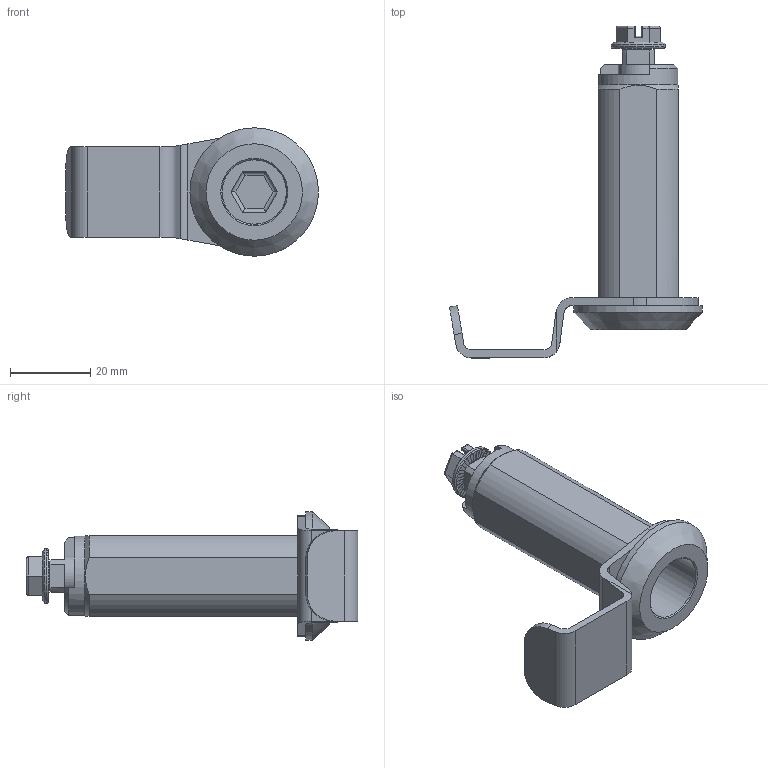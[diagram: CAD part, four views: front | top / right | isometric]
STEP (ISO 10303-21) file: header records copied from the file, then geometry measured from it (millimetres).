
FILE_DESCRIPTION((''),'2;1');
FILE_NAME('C:\Documents and Settings\Administrator\My Documents\Andys Backup Data\ANDY''S INVENTOR\INVENTOR LIBRARIES\MINITEC INVENTOR LIBRARIES\HANDLES LOCKS STOPS\A PACKED FILES\STEP FILES\21.1087_9 BOLT LOCK 45 HEX HEAD 10mm.stp','2010-06-25T10:32:43',('Administrator'),(''),'Autodesk Inventor 2009','Autodesk Inventor 2009','');
FILE_SCHEMA(('AUTOMOTIVE_DESIGN { 1 0 10303 214 1 1 1 1 }'));
Length unit declared in the file: millimetre
Products named in the file (8): 21.1087_9 BOLT LOCK 45 HEX HEAD 10mm; 1000-U506 HOUSING 60mm Zn BLACK; 1000-362; 1000-U96 10mm HEX CHROME INSERT; 1000-03_PRT; 1000-277-01_PRT; 1000-175; 1000-359 FINGER PULL
Assembly tree (7 placements, depth 3):
  21.1087_9 BOLT LOCK 45 HEX HEAD 10mm
    1000-U506 HOUSING 60mm Zn BLACK
      1000-362
    1000-U96 10mm HEX CHROME INSERT
      1000-03_PRT
      1000-277-01_PRT
      1000-175
    1000-359 FINGER PULL
Bounding box: 63 x 82.65 x 32 mm (x, y, z)
Volume: 18547 mm3; surface area: 15433 mm2
Topology: 5 solids, 5 shells, 299 faces, 744 edges, 463 vertices
Faces by surface type: plane 139, cylinder 126, bspline 12, torus 11, cone 7, sphere 4
Full cylindrical faces by diameter (mm): 5 x1, 5.5 x1, 9.9 x1, 10 x1, 10.2 x1, 12.8 x1, 13.5 x1, 15.2 x1, 16 x2, 16.1 x1, 19.8 x1, 32 x1
Entity records: 10098 total; most frequent: CARTESIAN_POINT 2503, DIRECTION 1548, ORIENTED_EDGE 1434, EDGE_CURVE 717, AXIS2_PLACEMENT_3D 575, VERTEX_POINT 456, VECTOR 398, LINE 398
